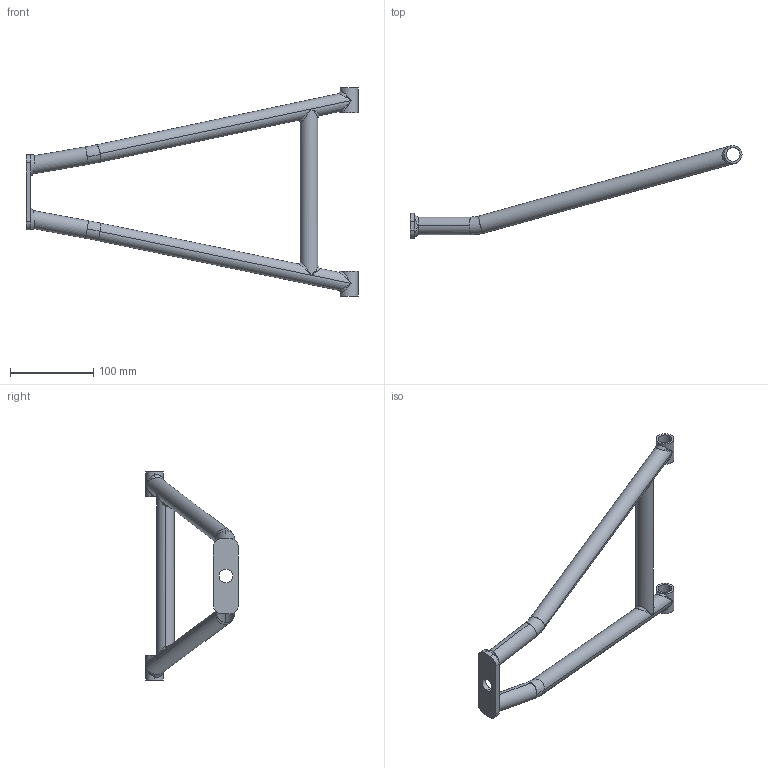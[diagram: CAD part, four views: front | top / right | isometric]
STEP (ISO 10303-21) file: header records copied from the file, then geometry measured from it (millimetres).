
FILE_DESCRIPTION (( 'STEP AP203' ), '1' );
FILE_NAME ('ïåðåäíèé âåðõíèé ðû÷àã.STEP', '2011-05-04T13:59:54', ( 'www.PHILka.RU' ), ( 'WareZ Provider ' ), 'SwSTEP 2.0', 'SolidWorks 2009', '' );
FILE_SCHEMA (( 'CONFIG_CONTROL_DESIGN' ));
Length unit declared in the file: millimetre
Products named in the file (1): ïåðåäíèé âåðõíèé ðû÷àã
Bounding box: 398.95 x 111.4 x 250 mm (x, y, z)
Volume: 157354.2 mm3; surface area: 136084 mm2
Topology: 20 solids, 20 shells, 116 faces, 288 edges, 192 vertices
Faces by surface type: cylinder 70, plane 26, bspline 12, torus 8
Entity records: 5774 total; most frequent: CARTESIAN_POINT 3238, ORIENTED_EDGE 544, DIRECTION 428, EDGE_CURVE 272, VERTEX_POINT 192, AXIS2_PLACEMENT_3D 181, EDGE_LOOP 136, FACE_OUTER_BOUND 116
